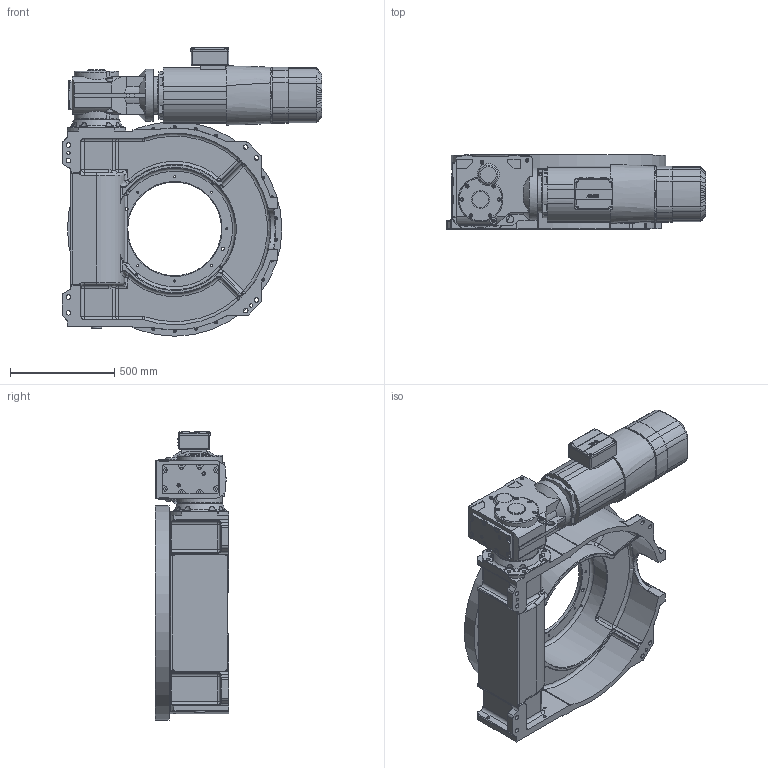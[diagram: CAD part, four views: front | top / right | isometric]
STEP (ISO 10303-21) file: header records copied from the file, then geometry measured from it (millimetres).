
FILE_DESCRIPTION((''),'2;1');
FILE_NAME('X:\Marb Stefan\TMF4000_03.stp','2013-10-16T16:09:41',('stefan.marb'),(''),'Autodesk Inventor 2012','Autodesk Inventor 2012','');
FILE_SCHEMA(('AUTOMOTIVE_DESIGN { 1 0 10303 214 1 1 1 1 }'));
Length unit declared in the file: millimetre
Products named in the file (2): TMF4000_03.iam (Ersatzdetailgenauigkeit1); TMF4000_03
Assembly tree (1 placements, depth 2):
  TMF4000_03.iam (Ersatzdetailgenauigkeit1)
    TMF4000_03
Bounding box: 1246.5 x 354.49 x 1384.5 mm (x, y, z)
Volume: 163277730.6 mm3; surface area: 8924130.1 mm2
Topology: 2 solids, 26 shells, 2619 faces, 6412 edges, 4089 vertices
Faces by surface type: plane 966, cylinder 859, bspline 326, cone 246, torus 178, sphere 44
Full cylindrical faces by diameter (mm): 4.134 x1, 4.917 x5, 5 x1, 6.647 x16, 6.8 x30, 8.917 x3, 9 x33, 10.106 x54, 10.2 x4, 11 x1, 12 x2, 12.79 x12, 12.8 x8, 13.5 x4, 13.835 x17, 15 x30, 16 x8, 17 x8, 17.5 x14, 20 x4, 22 x8, 35 x1, 46 x2, 48 x1, 50 x4, 52 x2, 54.5 x2, 54.8 x1, 55 x4, 57 x1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
Entity records: 100611 total; most frequent: CARTESIAN_POINT 43541, DIRECTION 11160, ORIENTED_EDGE 10702, EDGE_CURVE 5351, AXIS2_PLACEMENT_3D 4561, VERTEX_POINT 3760, EDGE_LOOP 3675, FACE_OUTER_BOUND 2619
